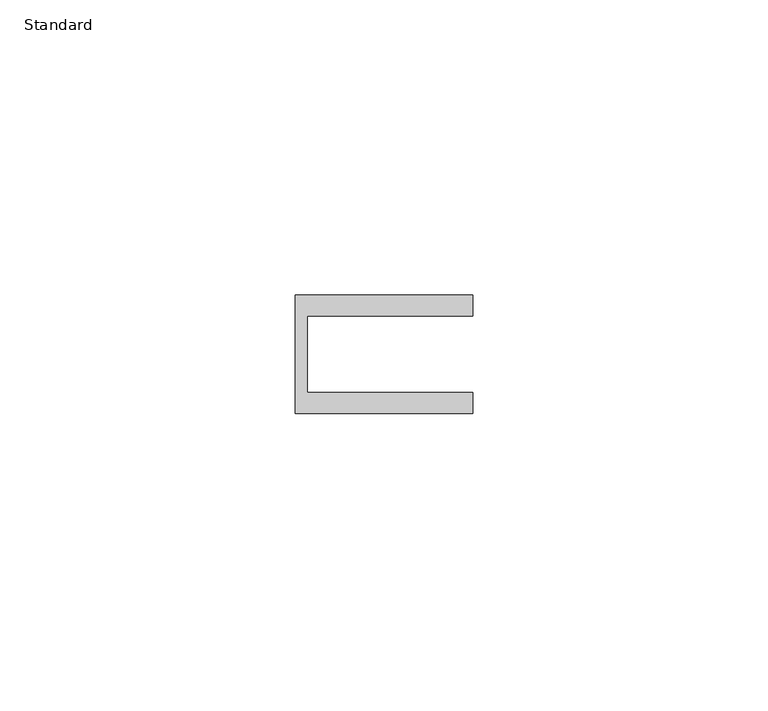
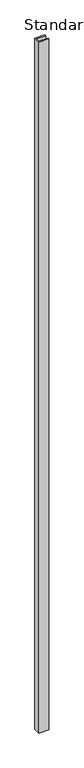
"""IFC4 building model written with IfcOpenShell, lengths in millimetres: furniture geometry, X_Partition-Channel-Duracube-End : Standard."""

from ifc_helpers import new_model, si_unit, frame, origin, place, context, project, spatial, polyline, outline, extrude, source, transform, mapped, element, save


def standard_4055153e(model_context):
    return source(origin(), model_context, "Body", "SweptSolid", [
        extrude(outline(polyline([(31.7003264, 0.0), (31.7003264, -13.0), (59.7003264, -13.0), (59.7003264, -16.5), (29.7003264, -16.5), (29.7003264, 3.5), (59.7003264, 3.5), (59.7003264, 0.0), (31.7003264, 0.0)])), frame((0.0, 0.0, 200.0), z_axis=(0.0, 0.0, 1.0), x_axis=(1.0, 0.0, 0.0)), (0.0, 0.0, 1.0), 2200.0),
    ])


if __name__ == "__main__":
    model = new_model("IFC4")
    model_context = context("Model", 3, world=origin())
    ifc_project = project(units=[si_unit("LENGTHUNIT", "METRE", prefix="MILLI")], contexts=[model_context])
    site = spatial("IfcSite", under=ifc_project)
    building = spatial("IfcBuilding", under=site)
    placement = place(None, origin())
    standard_shape = standard_4055153e(model_context)
    element("IfcFurniture", 1, ObjectType="X_Partition-Channel-Duracube-End : Standard", at=placement, inside=building, context=model_context, shape_type="MappedRepresentation", body=[
        mapped(standard_shape, transform((0.0, 0.0, 0.0), x_axis=(1.0, 0.0, 0.0), y_axis=(0.0, 1.0, 0.0), z_axis=(0.0, 0.0, 1.0))),
    ])
    save(model, "model.ifc")
